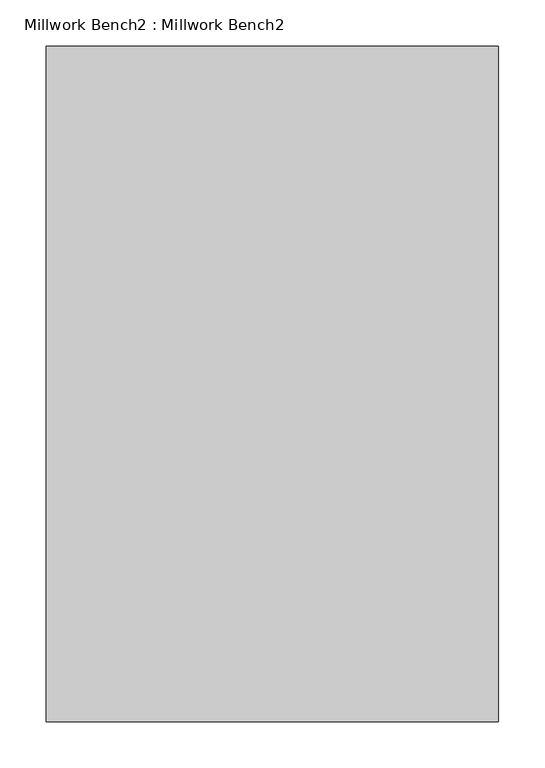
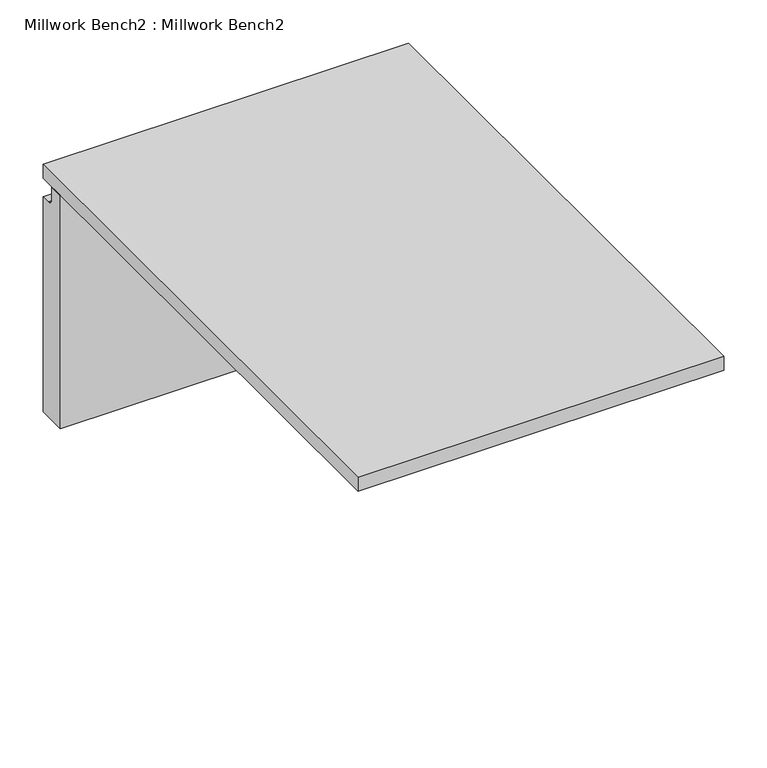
"""IFC4 building model written with IfcOpenShell, lengths in millimetres: plate geometry, Millwork Bench2 : Millwork Bench2."""

from ifc_helpers import new_model, si_unit, point, frame, frame_2d, origin, place, context, project, spatial, polyline, circle_curve, trimmed, segment, composite_curve, outline, extrude, source, transform, mapped, element, save


def millwork_bench2_millwork_bench2_22598439(model_context):
    return source(origin(), model_context, "Body", "SweptSolid", [
        extrude(outline(composite_curve([segment(polyline([(730.0, 304.4307002), (730.0, 0.0), (690.0, 0.0), (690.0, 330.0), (710.0, 330.0), (710.0, 312.4307002)]), True, "CONTINUOUS"), segment(trimmed(circle_curve(frame_2d((718.0, 312.4307002)), 8.0), [point((710.0, 312.4307002))], [point((718.0, 304.4307002))], True, "CARTESIAN"), True, "CONTINUOUS"), segment(polyline([(718.0, 304.4307002), (730.0, 304.4307002)]), True, "CONTINUOUS")], self_intersect=False)), frame((-244.6320343, 0.0, 0.0), z_axis=(1.0, 0.0, 0.0), x_axis=(0.0, 1.0, 0.0)), (0.0, 0.0, 1.0), 489.2640687),
        extrude(outline(polyline([(244.6320343, 730.0), (244.6320343, 0.0), (-244.6320343, 0.0), (-244.6320343, 730.0), (244.6320343, 730.0)])), frame((0.0, 0.0, 330.0), z_axis=(0.0, 0.0, 1.0), x_axis=(1.0, 0.0, 0.0)), (0.0, 0.0, 1.0), 20.0),
    ])


if __name__ == "__main__":
    model = new_model("IFC4")
    model_context = context("Model", 3, world=origin())
    ifc_project = project(units=[si_unit("LENGTHUNIT", "METRE", prefix="MILLI")], contexts=[model_context])
    site = spatial("IfcSite", under=ifc_project)
    building = spatial("IfcBuilding", under=site)
    placement = place(None, origin())
    millwork_bench2_millwork_bench2_shape = millwork_bench2_millwork_bench2_22598439(model_context)
    element("IfcPlate", 1, ObjectType="Millwork Bench2 : Millwork Bench2", at=placement, inside=building, context=model_context, shape_type="MappedRepresentation", body=[
        mapped(millwork_bench2_millwork_bench2_shape, transform((0.0, 0.0, 0.0), x_axis=(1.0, 0.0, 0.0), y_axis=(0.0, 1.0, 0.0), z_axis=(0.0, 0.0, 1.0))),
    ])
    save(model, "model.ifc")
